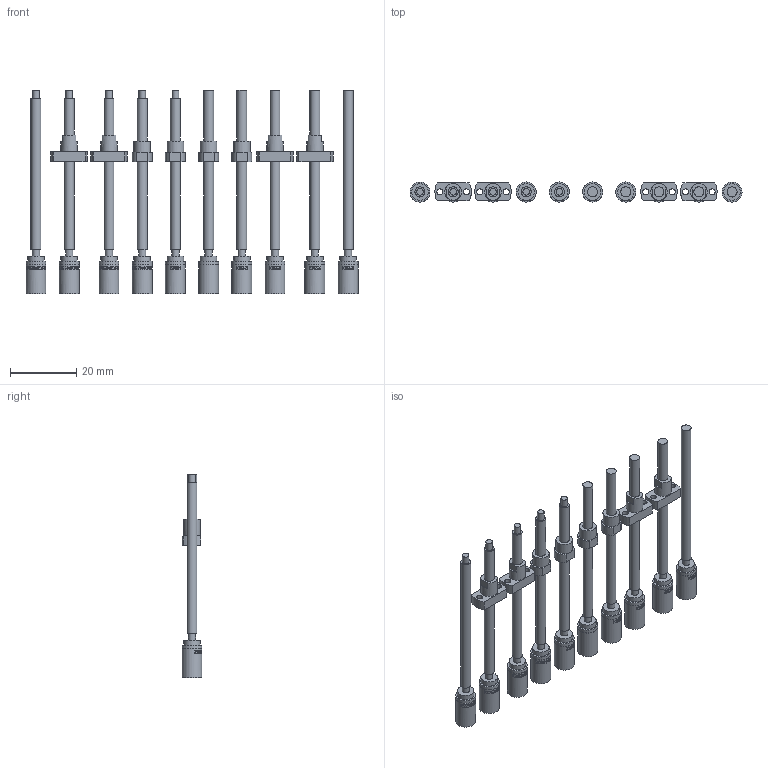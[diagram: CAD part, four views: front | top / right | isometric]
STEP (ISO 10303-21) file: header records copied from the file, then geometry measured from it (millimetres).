
FILE_DESCRIPTION(/* description */ (''),/* implementation_level */ '2;1');
FILE_NAME(/* name */ '06L-1stage_SL_standard_KWNx_KWS1_.stp',/* time_stamp */ '2023-05-12T06:31:08+02:00',/* author */ ('DR. FRITZ FAULHABER GmbH & Co. KG'),/* organization */ ('DR. FRITZ FAULHABER GmbH & Co. KG'),/* preprocessor_version */ 'ST-DEVELOPER v16.7',/* originating_system */ 'SIEMENS PLM Software NX 1919',/* authorisation */ '');
FILE_SCHEMA (('AUTOMOTIVE_DESIGN { 1 0 10303 214 3 1 1 1 }'));
Length unit declared in the file: millimetre
Products named in the file (1): H99999996-C-Linear Actuato
Bounding box: 100 x 6 x 61.3 mm (x, y, z)
Volume: 7159.4 mm3; surface area: 9098.2 mm2
Topology: 10 solids, 10 shells, 970 faces, 2327 edges, 1552 vertices
Faces by surface type: plane 494, bspline 245, cylinder 211, cone 20
Full cylindrical faces by diameter (mm): 1.8 x8, 1.95 x10, 2 x5, 2.2 x10, 2.35 x10, 2.8 x10, 3 x18, 3.959 x10, 5 x28, 5.8 x10, 6 x20
Entity records: 41193 total; most frequent: CARTESIAN_POINT 17558, ORIENTED_EDGE 4244, DIRECTION 2899, EDGE_CURVE 2122, VERTEX_POINT 1508, EDGE_LOOP 1322, AXIS2_PLACEMENT_3D 1249, B_SPLINE_CURVE_WITH_KNOTS 1198
